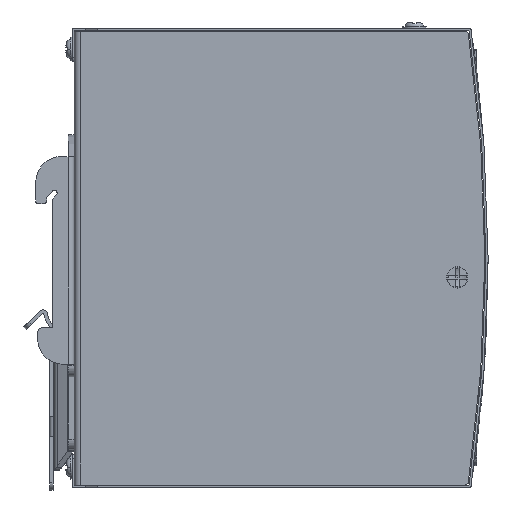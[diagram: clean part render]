
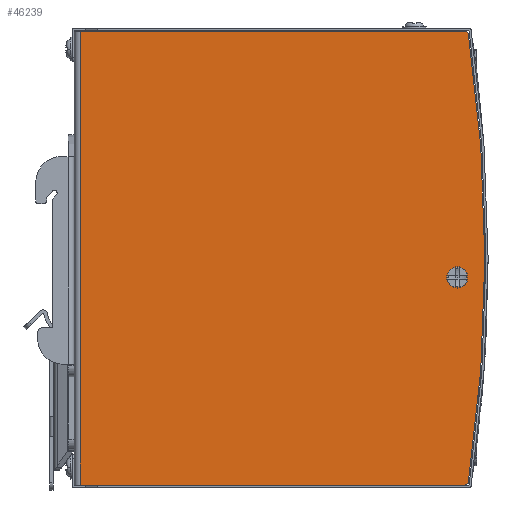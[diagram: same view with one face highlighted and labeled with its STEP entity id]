
A CAD part, front view. The second image highlights one B-rep face of the part: STEP entity #46239.
In plain terms, the highlighted planar face has unit normal (0, -1, 0).
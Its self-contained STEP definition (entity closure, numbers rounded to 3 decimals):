
#1263 = LINE ( 'NONE', #52790, #53533 ) ;
#1986 = CARTESIAN_POINT ( 'NONE',  ( 1761.194, 14.486, 8979.891 ) ) ;
#4531 = DIRECTION ( 'NONE',  ( 0., 0., -1. ) ) ;
#7766 = DIRECTION ( 'NONE',  ( 0., -1., 0. ) ) ;
#8508 = CARTESIAN_POINT ( 'NONE',  ( 1764.217, 14.486, 8924.145 ) ) ;
#10157 = VERTEX_POINT ( 'NONE', #24530 ) ;
#12433 = DIRECTION ( 'NONE',  ( 0., -1., 0. ) ) ;
#13048 = CARTESIAN_POINT ( 'NONE',  ( 1763.228, 14.486, 9045.991 ) ) ;
#13264 = DIRECTION ( 'NONE',  ( 0., 0., 1. ) ) ;
#14617 = ORIENTED_EDGE ( 'NONE', *, *, #17759, .F. ) ;
#15484 = VERTEX_POINT ( 'NONE', #23492 ) ;
#17510 = CIRCLE ( 'NONE', #64622, 1. ) ;
#17759 = EDGE_CURVE ( 'NONE', #59430, #30292, #17510, .T. ) ;
#19281 = ORIENTED_EDGE ( 'NONE', *, *, #34746, .T. ) ;
#19324 = DIRECTION ( 'NONE',  ( 1., 0., 0. ) ) ;
#19821 = CIRCLE ( 'NONE', #51645, 1. ) ;
#21531 = EDGE_LOOP ( 'NONE', ( #31019, #39190 ) ) ;
#21738 = FACE_BOUND ( 'NONE', #21531, .T. ) ;
#22989 = CARTESIAN_POINT ( 'NONE',  ( 1658.393, 14.486, 9046.991 ) ) ;
#23289 = DIRECTION ( 'NONE',  ( 0., 0., 1. ) ) ;
#23492 = CARTESIAN_POINT ( 'NONE',  ( 1658.393, 14.486, 8923.291 ) ) ;
#24530 = CARTESIAN_POINT ( 'NONE',  ( 1761.194, 14.486, 8982.641 ) ) ;
#24835 = CIRCLE ( 'NONE', #58891, 2.75 ) ;
#28368 = EDGE_CURVE ( 'NONE', #32612, #15484, #52273, .T. ) ;
#28388 = VERTEX_POINT ( 'NONE', #57436 ) ;
#28389 = ORIENTED_EDGE ( 'NONE', *, *, #28368, .T. ) ;
#28566 = VERTEX_POINT ( 'NONE', #8508 ) ;
#28806 = DIRECTION ( 'NONE',  ( 0., 1., 0. ) ) ;
#28828 = VECTOR ( 'NONE', #4531, 1000. ) ;
#28843 = DIRECTION ( 'NONE',  ( 0., 1., 0. ) ) ;
#29460 = DIRECTION ( 'NONE',  ( 0.989, 0., 0.146 ) ) ;
#30292 = VERTEX_POINT ( 'NONE', #51326 ) ;
#31019 = ORIENTED_EDGE ( 'NONE', *, *, #47294, .F. ) ;
#32612 = VERTEX_POINT ( 'NONE', #22989 ) ;
#34746 = EDGE_CURVE ( 'NONE', #15484, #28388, #67034, .T. ) ;
#35798 = CARTESIAN_POINT ( 'NONE',  ( 1658.393, 14.486, 9046.991 ) ) ;
#36230 = AXIS2_PLACEMENT_3D ( 'NONE', #1986, #38105, #23289 ) ;
#36781 = DIRECTION ( 'NONE',  ( 0., 1., 0. ) ) ;
#37670 = VECTOR ( 'NONE', #19324, 1000. ) ;
#38042 = DIRECTION ( 'NONE',  ( 1., 0., 0. ) ) ;
#38105 = DIRECTION ( 'NONE',  ( 0., -1., 0. ) ) ;
#39134 = CARTESIAN_POINT ( 'NONE',  ( 1350.583, 14.486, 8985.141 ) ) ;
#39190 = ORIENTED_EDGE ( 'NONE', *, *, #43228, .F. ) ;
#41927 = CARTESIAN_POINT ( 'NONE',  ( 1763.228, 14.486, 8924.291 ) ) ;
#42406 = CARTESIAN_POINT ( 'NONE',  ( 1761.194, 14.486, 8977.141 ) ) ;
#43228 = EDGE_CURVE ( 'NONE', #10157, #48083, #24835, .T. ) ;
#44377 = EDGE_CURVE ( 'NONE', #32612, #59430, #1263, .T. ) ;
#46239 = ADVANCED_FACE ( 'NONE', ( #21738, #48498 ), #59147, .T. ) ;
#47102 = ORIENTED_EDGE ( 'NONE', *, *, #61227, .F. ) ;
#47169 = AXIS2_PLACEMENT_3D ( 'NONE', #39134, #28806, #29460 ) ;
#47294 = EDGE_CURVE ( 'NONE', #48083, #10157, #50500, .T. ) ;
#47452 = CARTESIAN_POINT ( 'NONE',  ( 1763.228, 14.486, 9046.991 ) ) ;
#48083 = VERTEX_POINT ( 'NONE', #42406 ) ;
#48498 = FACE_OUTER_BOUND ( 'NONE', #50669, .T. ) ;
#49335 = AXIS2_PLACEMENT_3D ( 'NONE', #54353, #12433, #60493 ) ;
#49788 = DIRECTION ( 'NONE',  ( 0., 0., 1. ) ) ;
#50500 = CIRCLE ( 'NONE', #36230, 2.75 ) ;
#50669 = EDGE_LOOP ( 'NONE', ( #50752, #28389, #19281, #65108, #47102, #14617 ) ) ;
#50752 = ORIENTED_EDGE ( 'NONE', *, *, #44377, .F. ) ;
#51188 = EDGE_CURVE ( 'NONE', #28566, #28388, #19821, .T. ) ;
#51326 = CARTESIAN_POINT ( 'NONE',  ( 1764.217, 14.486, 9046.137 ) ) ;
#51645 = AXIS2_PLACEMENT_3D ( 'NONE', #41927, #36781, #62193 ) ;
#52273 = LINE ( 'NONE', #35798, #28828 ) ;
#52790 = CARTESIAN_POINT ( 'NONE',  ( 1658.393, 14.486, 9046.991 ) ) ;
#53533 = VECTOR ( 'NONE', #38042, 1000. ) ;
#54353 = CARTESIAN_POINT ( 'NONE',  ( 1758.919, 14.486, 8979.891 ) ) ;
#54826 = CARTESIAN_POINT ( 'NONE',  ( 1761.194, 14.486, 8979.891 ) ) ;
#57436 = CARTESIAN_POINT ( 'NONE',  ( 1763.228, 14.486, 8923.291 ) ) ;
#58891 = AXIS2_PLACEMENT_3D ( 'NONE', #54826, #7766, #13264 ) ;
#59147 = PLANE ( 'NONE',  #49335 ) ;
#59430 = VERTEX_POINT ( 'NONE', #47452 ) ;
#60493 = DIRECTION ( 'NONE',  ( 0., 0., -1. ) ) ;
#61227 = EDGE_CURVE ( 'NONE', #30292, #28566, #62529, .T. ) ;
#62193 = DIRECTION ( 'NONE',  ( 0.989, 0., -0.146 ) ) ;
#62529 = CIRCLE ( 'NONE', #47169, 418.107 ) ;
#64622 = AXIS2_PLACEMENT_3D ( 'NONE', #13048, #28843, #49788 ) ;
#65108 = ORIENTED_EDGE ( 'NONE', *, *, #51188, .F. ) ;
#67034 = LINE ( 'NONE', #67391, #37670 ) ;
#67391 = CARTESIAN_POINT ( 'NONE',  ( 1658.393, 14.486, 8923.291 ) ) ;
